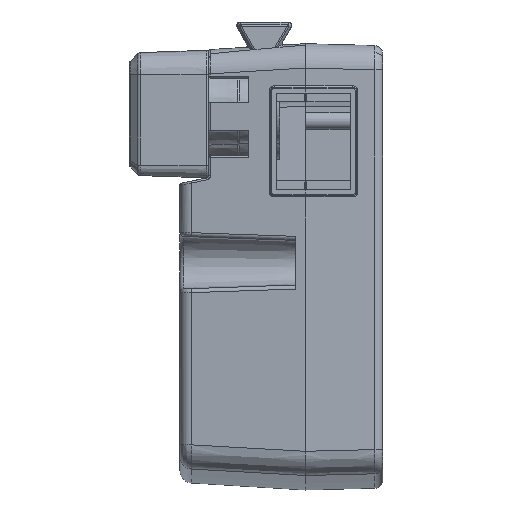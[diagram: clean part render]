
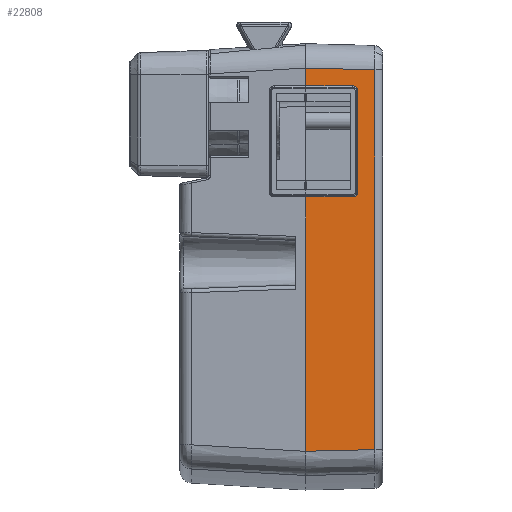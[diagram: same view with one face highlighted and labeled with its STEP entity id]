
A CAD part, left-side view. The second image highlights one B-rep face of the part: STEP entity #22808.
In plain terms, the highlighted planar face has unit normal (-1, -0.026, 0).
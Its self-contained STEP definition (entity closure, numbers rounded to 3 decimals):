
#1761 = EDGE_LOOP ( 'NONE', ( #25304, #25305, #25306, #25307, #25308, #25309, #25310, #25311, #25312, #25313 ) ) ;
#2072 = AXIS2_PLACEMENT_3D ( 'NONE', #3702, #3762, #3763 ) ;
#3702 = CARTESIAN_POINT ( 'NONE',  ( -139.054, 20.677, -100.329 ) ) ;
#3753 = PLANE ( 'NONE',  #2072 ) ;
#3762 = DIRECTION ( 'NONE',  ( -1., -0.026, 0. ) ) ;
#3763 = DIRECTION ( 'NONE',  ( 0.026, -1., 0. ) ) ;
#7496 = CARTESIAN_POINT ( 'NONE',  ( -139.054, 20.677, -100.329 ) ) ;
#7497 = DIRECTION ( 'NONE',  ( 0., 0., 1. ) ) ;
#7512 = CARTESIAN_POINT ( 'NONE',  ( -139.054, 20.677, -100.329 ) ) ;
#7533 = DIRECTION ( 'NONE',  ( 0., 0., 1. ) ) ;
#7718 = CARTESIAN_POINT ( 'NONE',  ( -139.054, 20.677, -94.833 ) ) ;
#7732 = CARTESIAN_POINT ( 'NONE',  ( -138.972, 17.554, -94.758 ) ) ;
#7733 = CARTESIAN_POINT ( 'NONE',  ( -138.891, 14.431, -94.683 ) ) ;
#7734 = CARTESIAN_POINT ( 'NONE',  ( -138.809, 11.308, -94.608 ) ) ;
#7735 = CARTESIAN_POINT ( 'NONE',  ( -138.742, 8.747, -94.546 ) ) ;
#7736 = CARTESIAN_POINT ( 'NONE',  ( -138.675, 6.186, -94.485 ) ) ;
#7737 = CARTESIAN_POINT ( 'NONE',  ( -138.608, 3.624, -94.423 ) ) ;
#7738 = CARTESIAN_POINT ( 'NONE',  ( -138.986, 18.062, -0.395 ) ) ;
#7739 = DIRECTION ( 'NONE',  ( -0.026, 0.999, 0.026 ) ) ;
#7790 = CARTESIAN_POINT ( 'NONE',  ( -138.608, 3.624, -100.329 ) ) ;
#7791 = DIRECTION ( 'NONE',  ( 0., 0., 1. ) ) ;
#11467 = CARTESIAN_POINT ( 'NONE',  ( -138.752, 9.134, -4.729 ) ) ;
#11479 = CARTESIAN_POINT ( 'NONE',  ( -139.054, 20.677, -32.129 ) ) ;
#11480 = DIRECTION ( 'NONE',  ( -0.026, 1., 0. ) ) ;
#11506 = CARTESIAN_POINT ( 'NONE',  ( -138.718, 7.834, -31.59 ) ) ;
#11507 = CARTESIAN_POINT ( 'NONE',  ( -138.732, 8.373, -32.129 ) ) ;
#11508 = CARTESIAN_POINT ( 'NONE',  ( -138.752, 9.134, -32.129 ) ) ;
#11509 = CARTESIAN_POINT ( 'NONE',  ( -138.718, 7.834, -30.829 ) ) ;
#11512 = CARTESIAN_POINT ( 'NONE',  ( -138.732, 8.373, -4.729 ) ) ;
#11513 = CARTESIAN_POINT ( 'NONE',  ( -138.718, 7.834, -5.267 ) ) ;
#11514 = CARTESIAN_POINT ( 'NONE',  ( -138.718, 7.834, -6.029 ) ) ;
#11515 = CARTESIAN_POINT ( 'NONE',  ( -138.718, 7.834, -100.329 ) ) ;
#11516 = DIRECTION ( 'NONE',  ( 0., 0., -1. ) ) ;
#11534 = CARTESIAN_POINT ( 'NONE',  ( -139.054, 20.677, -4.729 ) ) ;
#11542 = DIRECTION ( 'NONE',  ( 0.026, -1., 0. ) ) ;
#12120 = EDGE_CURVE ( 'NONE', #39869, #39845, #42021, .T. ) ;
#12126 = EDGE_CURVE ( 'NONE', #39908, #39906, #42026, .T. ) ;
#12127 = EDGE_CURVE ( 'NONE', #39845, #39908, #17140, .T. ) ;
#12129 = EDGE_CURVE ( 'NONE', #39906, #39838, #17139, .T. ) ;
#12136 = EDGE_CURVE ( 'NONE', #39838, #39902, #42036, .T. ) ;
#17139 =( BOUNDED_CURVE ( )  B_SPLINE_CURVE ( 3, ( #11509, #11506, #11507, #11508 ),
 .UNSPECIFIED., .F., .T. ) 
 B_SPLINE_CURVE_WITH_KNOTS ( ( 4, 4 ),
 ( 3.142, 4.712 ),
 .UNSPECIFIED. ) 
 CURVE ( )  GEOMETRIC_REPRESENTATION_ITEM ( )  RATIONAL_B_SPLINE_CURVE ( ( 1., 0.805, 0.805, 1. ) ) 
 REPRESENTATION_ITEM ( '' )  );
#17140 =( BOUNDED_CURVE ( )  B_SPLINE_CURVE ( 3, ( #11467, #11512, #11513, #11514 ),
 .UNSPECIFIED., .F., .T. ) 
 B_SPLINE_CURVE_WITH_KNOTS ( ( 4, 4 ),
 ( 1.571, 3.142 ),
 .UNSPECIFIED. ) 
 CURVE ( )  GEOMETRIC_REPRESENTATION_ITEM ( )  RATIONAL_B_SPLINE_CURVE ( ( 1., 0.805, 0.805, 1. ) ) 
 REPRESENTATION_ITEM ( '' )  );
#18950 = EDGE_CURVE ( 'NONE', #39869, #39931, #20557, .T. ) ;
#18957 = EDGE_CURVE ( 'NONE', #39657, #39902, #20569, .T. ) ;
#19022 = EDGE_CURVE ( 'NONE', #39657, #39513, #25018, .T. ) ;
#19023 = EDGE_CURVE ( 'NONE', #39537, #39931, #20759, .T. ) ;
#19029 = EDGE_CURVE ( 'NONE', #39513, #39537, #20700, .T. ) ;
#20557 = LINE ( 'NONE', #7496, #20558 ) ;
#20558 = VECTOR ( 'NONE', #7497, 1000. ) ;
#20563 = VECTOR ( 'NONE', #7533, 1000. ) ;
#20569 = LINE ( 'NONE', #7512, #20563 ) ;
#20693 = VECTOR ( 'NONE', #7791, 1000. ) ;
#20700 = LINE ( 'NONE', #7790, #20693 ) ;
#20757 = VECTOR ( 'NONE', #7739, 1000. ) ;
#20759 = LINE ( 'NONE', #7738, #20757 ) ;
#22808 = ADVANCED_FACE ( 'NONE', ( #40458 ), #3753, .T. ) ;
#25018 = B_SPLINE_CURVE_WITH_KNOTS ( 'NONE', 3,
 ( #7718, #7732, #7733, #7734, #7735, #7736, #7737 ),
 .UNSPECIFIED., .F., .F.,
 ( 4, 3, 4 ),
 ( 0., 0.009, 0.017 ),
 .UNSPECIFIED. ) ;
#25304 = ORIENTED_EDGE ( 'NONE', *, *, #19022, .T. ) ;
#25305 = ORIENTED_EDGE ( 'NONE', *, *, #19029, .T. ) ;
#25306 = ORIENTED_EDGE ( 'NONE', *, *, #19023, .T. ) ;
#25307 = ORIENTED_EDGE ( 'NONE', *, *, #18950, .F. ) ;
#25308 = ORIENTED_EDGE ( 'NONE', *, *, #12120, .T. ) ;
#25309 = ORIENTED_EDGE ( 'NONE', *, *, #12127, .T. ) ;
#25310 = ORIENTED_EDGE ( 'NONE', *, *, #12126, .T. ) ;
#25311 = ORIENTED_EDGE ( 'NONE', *, *, #12129, .T. ) ;
#25312 = ORIENTED_EDGE ( 'NONE', *, *, #12136, .T. ) ;
#25313 = ORIENTED_EDGE ( 'NONE', *, *, #18957, .F. ) ;
#29014 = CARTESIAN_POINT ( 'NONE',  ( -138.608, 3.624, -94.423 ) ) ;
#29038 = CARTESIAN_POINT ( 'NONE',  ( -138.608, 3.624, -0.773 ) ) ;
#29156 = CARTESIAN_POINT ( 'NONE',  ( -139.054, 20.677, -94.833 ) ) ;
#29293 = CARTESIAN_POINT ( 'NONE',  ( -138.752, 9.134, -32.129 ) ) ;
#29300 = CARTESIAN_POINT ( 'NONE',  ( -138.752, 9.134, -4.729 ) ) ;
#29324 = CARTESIAN_POINT ( 'NONE',  ( -139.054, 20.677, -4.729 ) ) ;
#29357 = CARTESIAN_POINT ( 'NONE',  ( -139.054, 20.677, -32.129 ) ) ;
#29361 = CARTESIAN_POINT ( 'NONE',  ( -138.718, 7.834, -30.829 ) ) ;
#29363 = CARTESIAN_POINT ( 'NONE',  ( -138.718, 7.834, -6.029 ) ) ;
#29386 = CARTESIAN_POINT ( 'NONE',  ( -139.054, 20.677, -0.327 ) ) ;
#39513 = VERTEX_POINT ( 'NONE', #29014 ) ;
#39537 = VERTEX_POINT ( 'NONE', #29038 ) ;
#39657 = VERTEX_POINT ( 'NONE', #29156 ) ;
#39838 = VERTEX_POINT ( 'NONE', #29293 ) ;
#39845 = VERTEX_POINT ( 'NONE', #29300 ) ;
#39869 = VERTEX_POINT ( 'NONE', #29324 ) ;
#39902 = VERTEX_POINT ( 'NONE', #29357 ) ;
#39906 = VERTEX_POINT ( 'NONE', #29361 ) ;
#39908 = VERTEX_POINT ( 'NONE', #29363 ) ;
#39931 = VERTEX_POINT ( 'NONE', #29386 ) ;
#40458 = FACE_OUTER_BOUND ( 'NONE', #1761, .T. ) ;
#42019 = VECTOR ( 'NONE', #11542, 1000. ) ;
#42021 = LINE ( 'NONE', #11534, #42019 ) ;
#42026 = LINE ( 'NONE', #11515, #42028 ) ;
#42028 = VECTOR ( 'NONE', #11516, 1000. ) ;
#42036 = LINE ( 'NONE', #11479, #42037 ) ;
#42037 = VECTOR ( 'NONE', #11480, 1000. ) ;
